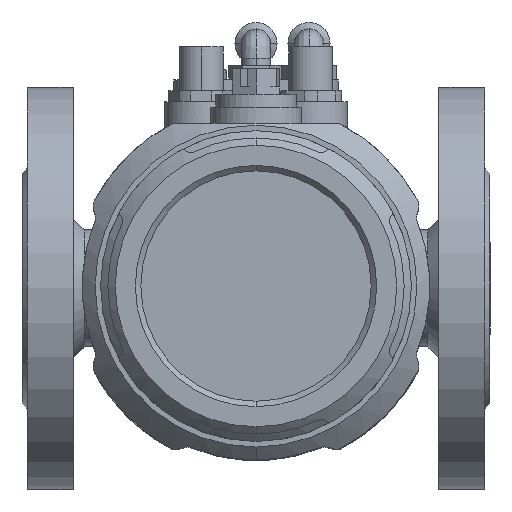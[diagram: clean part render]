
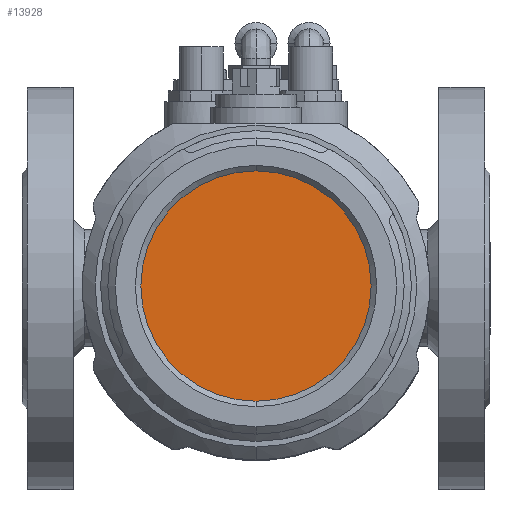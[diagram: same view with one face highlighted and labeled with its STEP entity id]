
A CAD part, top view. The second image highlights one B-rep face of the part: STEP entity #13928.
In plain terms, the highlighted planar face has unit normal (0, 0, 1) as drawn and (0, 1, 0) by its records, which use the part's own axes.
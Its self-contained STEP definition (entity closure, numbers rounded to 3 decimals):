
#9320=CARTESIAN_POINT('',(0.,20.,0.));
#9321=DIRECTION('',(0.,-1.,0.));
#9322=DIRECTION('',(-1.,0.,0.));
#9323=AXIS2_PLACEMENT_3D('',#9320,#9321,#9322);
#9325=CARTESIAN_POINT('',(0.,20.,0.));
#9326=DIRECTION('',(0.,-1.,0.));
#9327=DIRECTION('',(1.,0.,0.));
#9328=AXIS2_PLACEMENT_3D('',#9325,#9326,#9327);
#9346=CARTESIAN_POINT('',(-31.5,20.,0.));
#9347=CARTESIAN_POINT('',(31.5,20.,0.));
#9348=VERTEX_POINT('',#9346);
#9349=VERTEX_POINT('',#9347);
#13919=CARTESIAN_POINT('',(0.,20.,0.));
#13920=DIRECTION('',(0.,1.,0.));
#13921=DIRECTION('',(1.,0.,0.));
#13922=AXIS2_PLACEMENT_3D('',#13919,#13920,#13921);
#13923=PLANE('',#13922);
#13924=ORIENTED_EDGE('',*,*,#13899,.T.);
#13925=ORIENTED_EDGE('',*,*,#13913,.T.);
#13926=EDGE_LOOP('',(#13924,#13925));
#13927=FACE_OUTER_BOUND('',#13926,.F.);
#13928=ADVANCED_FACE('',(#13927),#13923,.T.);
#9324=CIRCLE('',#9323,31.5);
#9329=CIRCLE('',#9328,31.5);
#13899=EDGE_CURVE('',#9348,#9349,#9324,.T.);
#13913=EDGE_CURVE('',#9349,#9348,#9329,.T.);
